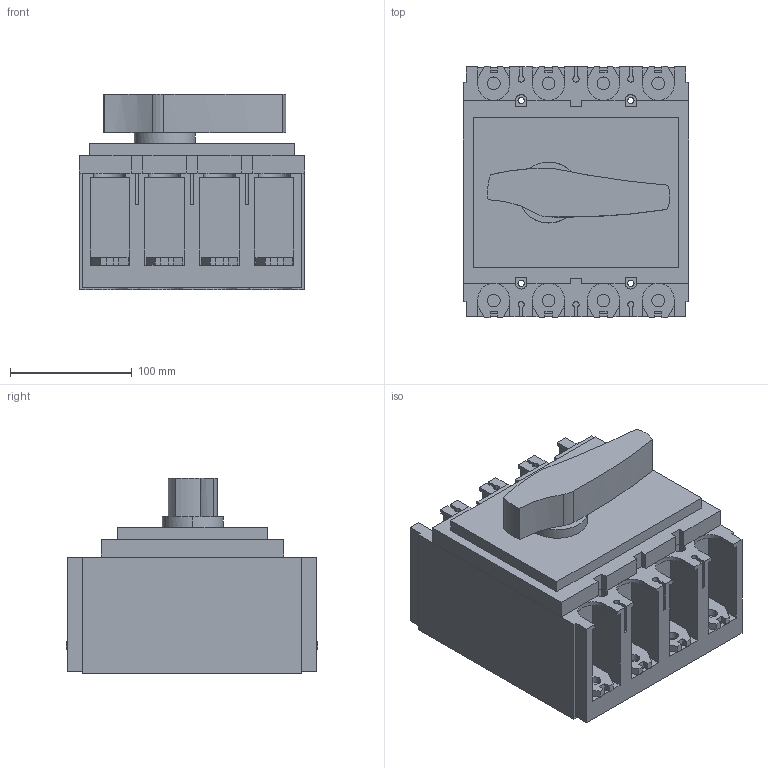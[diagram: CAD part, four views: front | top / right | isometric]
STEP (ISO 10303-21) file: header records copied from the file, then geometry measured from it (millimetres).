
FILE_DESCRIPTION((''),'2;1');
FILE_NAME('1729069521862_ASM','2024-10-16T14:35:42',('SESA523511'),('Schneider-Electric'),'CREO PARAMETRIC BY PTC INC, 2021284','CREO PARAMETRIC BY PTC INC, 2021284','');
FILE_SCHEMA(('AP242_MANAGED_MODEL_BASED_3D_ENGINEERING_MIM_LF { 1 0 10303 442 1 1 4 }'));
Length unit declared in the file: millimetre
Products named in the file (9): EMPTYNODE_1729069521937_ASM; PIECE_01_1_1_1; PIECE_02_1_1_1; PIECE_10_1_1_1; PIECE_09_1_1_1; MANETTE_03_1_1_1; INS_INV320_630_4P_ASM_1_ASM; INS630-4P-3D_ASM; 1729069521862_ASM
Assembly tree (22 placements, depth 4):
  1729069521862_ASM
    EMPTYNODE_1729069521937_ASM
    INS630-4P-3D_ASM
      INS_INV320_630_4P_ASM_1_ASM
        PIECE_01_1_1_1
        PIECE_02_1_1_1
        PIECE_10_1_1_1  x8
        PIECE_09_1_1_1  x8
        MANETTE_03_1_1_1
Bounding box: 184.8 x 206 x 160 mm (x, y, z)
Volume: 3751672.6 mm3; surface area: 339609.9 mm2
Topology: 19 solids, 19 shells, 487 faces, 1371 edges, 924 vertices
Faces by surface type: plane 425, cylinder 62
Entity records: 11426 total; most frequent: CARTESIAN_POINT 1999, ORIENTED_EDGE 1902, DIRECTION 1837, EDGE_CURVE 951, VECTOR 805, LINE 805, VERTEX_POINT 644, AXIS2_PLACEMENT_3D 516
